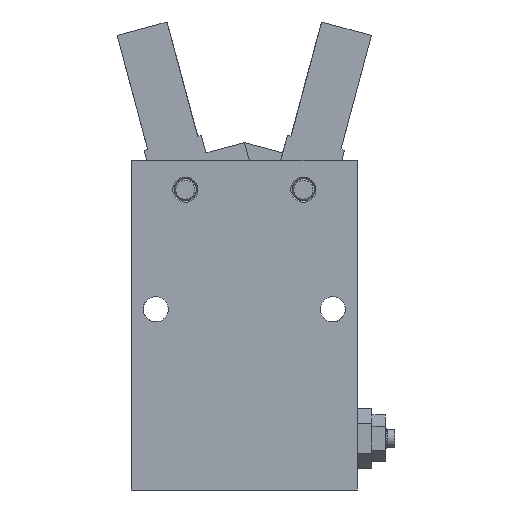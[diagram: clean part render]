
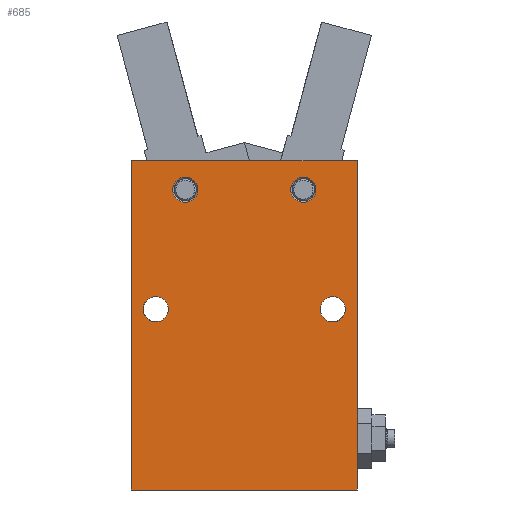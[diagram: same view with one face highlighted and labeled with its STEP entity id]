
A CAD part, front view. The second image highlights one B-rep face of the part: STEP entity #685.
In plain terms, the highlighted planar face has unit normal (0, -1, 0).
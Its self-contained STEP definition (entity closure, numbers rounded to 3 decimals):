
#32 = VERTEX_POINT ( 'NONE', #1544 ) ;
#36 = VERTEX_POINT ( 'NONE', #1538 ) ;
#63 = VERTEX_POINT ( 'NONE', #1565 ) ;
#104 = EDGE_CURVE ( 'NONE', #105, #63, #1681, .T. ) ;
#105 = VERTEX_POINT ( 'NONE', #1676 ) ;
#229 = VERTEX_POINT ( 'NONE', #1902 ) ;
#304 = VERTEX_POINT ( 'NONE', #1966 ) ;
#312 = VERTEX_POINT ( 'NONE', #2015 ) ;
#348 = EDGE_CURVE ( 'NONE', #312, #304, #2062, .T. ) ;
#609 = EDGE_LOOP ( 'NONE', ( #610, #611 ) ) ;
#610 = ORIENTED_EDGE ( 'NONE', *, *, #104, .T. ) ;
#611 = ORIENTED_EDGE ( 'NONE', *, *, #612, .T. ) ;
#612 = EDGE_CURVE ( 'NONE', #63, #105, #2590, .T. ) ;
#669 = EDGE_LOOP ( 'NONE', ( #670, #671 ) ) ;
#670 = ORIENTED_EDGE ( 'NONE', *, *, #4935, .T. ) ;
#671 = ORIENTED_EDGE ( 'NONE', *, *, #4970, .T. ) ;
#672 = EDGE_LOOP ( 'NONE', ( #673, #674 ) ) ;
#673 = ORIENTED_EDGE ( 'NONE', *, *, #4948, .T. ) ;
#674 = ORIENTED_EDGE ( 'NONE', *, *, #348, .T. ) ;
#675 = EDGE_LOOP ( 'NONE', ( #676, #677, #679, #680 ) ) ;
#676 = ORIENTED_EDGE ( 'NONE', *, *, #4995, .T. ) ;
#677 = ORIENTED_EDGE ( 'NONE', *, *, #678, .F. ) ;
#678 = EDGE_CURVE ( 'NONE', #229, #4887, #2669, .T. ) ;
#679 = ORIENTED_EDGE ( 'NONE', *, *, #5005, .F. ) ;
#680 = ORIENTED_EDGE ( 'NONE', *, *, #682, .T. ) ;
#682 = EDGE_CURVE ( 'NONE', #5003, #4996, #2665, .T. ) ;
#685 = ADVANCED_FACE ( 'NONE', ( #2661, #2660, #2659, #2658, #2657 ), #2656, .F. ) ;
#686 = EDGE_LOOP ( 'NONE', ( #687, #688 ) ) ;
#687 = ORIENTED_EDGE ( 'NONE', *, *, #4922, .T. ) ;
#688 = ORIENTED_EDGE ( 'NONE', *, *, #689, .T. ) ;
#689 = EDGE_CURVE ( 'NONE', #32, #36, #2721, .T. ) ;
#1538 = CARTESIAN_POINT ( 'NONE',  ( -8., -11.8, 16.7 ) ) ;
#1544 = CARTESIAN_POINT ( 'NONE',  ( -8., -11.8, 20.1 ) ) ;
#1565 = CARTESIAN_POINT ( 'NONE',  ( 8., -11.8, 20.1 ) ) ;
#1676 = CARTESIAN_POINT ( 'NONE',  ( 8., -11.8, 16.7 ) ) ;
#1677 = DIRECTION ( 'NONE',  ( 0., 0., 1. ) ) ;
#1678 = DIRECTION ( 'NONE',  ( 0., 1., 0. ) ) ;
#1679 = CARTESIAN_POINT ( 'NONE',  ( 8., -11.8, 18.4 ) ) ;
#1680 = AXIS2_PLACEMENT_3D ( 'NONE', #1679, #1678, #1677 ) ;
#1681 = CIRCLE ( 'NONE', #1680, 1.7 ) ;
#1902 = CARTESIAN_POINT ( 'NONE',  ( 15.3, -11.8, -22.3 ) ) ;
#1966 = CARTESIAN_POINT ( 'NONE',  ( 12., -11.8, 3.9 ) ) ;
#2015 = CARTESIAN_POINT ( 'NONE',  ( 12., -11.8, 0.5 ) ) ;
#2058 = DIRECTION ( 'NONE',  ( 0., 0., 1. ) ) ;
#2059 = DIRECTION ( 'NONE',  ( 0., 1., 0. ) ) ;
#2060 = CARTESIAN_POINT ( 'NONE',  ( 12., -11.8, 2.2 ) ) ;
#2061 = AXIS2_PLACEMENT_3D ( 'NONE', #2060, #2059, #2058 ) ;
#2062 = CIRCLE ( 'NONE', #2061, 1.7 ) ;
#2586 = DIRECTION ( 'NONE',  ( 0., 0., 1. ) ) ;
#2587 = DIRECTION ( 'NONE',  ( 0., 1., 0. ) ) ;
#2588 = CARTESIAN_POINT ( 'NONE',  ( 8., -11.8, 18.4 ) ) ;
#2589 = AXIS2_PLACEMENT_3D ( 'NONE', #2588, #2587, #2586 ) ;
#2590 = CIRCLE ( 'NONE', #2589, 1.7 ) ;
#2655 = AXIS2_PLACEMENT_3D ( 'NONE', #2720, #2719, #2718 ) ;
#2656 = PLANE ( 'NONE',  #2655 ) ;
#2657 = FACE_OUTER_BOUND ( 'NONE', #675, .T. ) ;
#2658 = FACE_BOUND ( 'NONE', #672, .T. ) ;
#2659 = FACE_BOUND ( 'NONE', #669, .T. ) ;
#2660 = FACE_BOUND ( 'NONE', #609, .T. ) ;
#2661 = FACE_BOUND ( 'NONE', #686, .T. ) ;
#2662 = DIRECTION ( 'NONE',  ( -1., 0., 0. ) ) ;
#2663 = VECTOR ( 'NONE', #2662, 1000. ) ;
#2664 = CARTESIAN_POINT ( 'NONE',  ( 15.3, -11.8, 22.3 ) ) ;
#2665 = LINE ( 'NONE', #2664, #2663 ) ;
#2666 = DIRECTION ( 'NONE',  ( -1., 0., 0. ) ) ;
#2667 = VECTOR ( 'NONE', #2666, 1000. ) ;
#2668 = CARTESIAN_POINT ( 'NONE',  ( 15.3, -11.8, -22.3 ) ) ;
#2669 = LINE ( 'NONE', #2668, #2667 ) ;
#2714 = DIRECTION ( 'NONE',  ( 0., 0., 1. ) ) ;
#2715 = DIRECTION ( 'NONE',  ( 0., 1., 0. ) ) ;
#2716 = CARTESIAN_POINT ( 'NONE',  ( -8., -11.8, 18.4 ) ) ;
#2717 = AXIS2_PLACEMENT_3D ( 'NONE', #2716, #2715, #2714 ) ;
#2718 = DIRECTION ( 'NONE',  ( 0., 0., 1. ) ) ;
#2719 = DIRECTION ( 'NONE',  ( 0., 1., 0. ) ) ;
#2720 = CARTESIAN_POINT ( 'NONE',  ( 15.3, -11.8, -22.3 ) ) ;
#2721 = CIRCLE ( 'NONE', #2717, 1.7 ) ;
#4165 = CARTESIAN_POINT ( 'NONE',  ( -15.3, -11.8, -22.3 ) ) ;
#4172 = CIRCLE ( 'NONE', #4227, 1.7 ) ;
#4201 = AXIS2_PLACEMENT_3D ( 'NONE', #4264, #4263, #4262 ) ;
#4202 = CIRCLE ( 'NONE', #4201, 1.7 ) ;
#4224 = DIRECTION ( 'NONE',  ( 0., 0., 1. ) ) ;
#4225 = DIRECTION ( 'NONE',  ( 0., 1., 0. ) ) ;
#4226 = CARTESIAN_POINT ( 'NONE',  ( -8., -11.8, 18.4 ) ) ;
#4227 = AXIS2_PLACEMENT_3D ( 'NONE', #4226, #4225, #4224 ) ;
#4247 = DIRECTION ( 'NONE',  ( 0., 0., 1. ) ) ;
#4248 = DIRECTION ( 'NONE',  ( 0., 1., 0. ) ) ;
#4249 = CARTESIAN_POINT ( 'NONE',  ( 12., -11.8, 2.2 ) ) ;
#4250 = AXIS2_PLACEMENT_3D ( 'NONE', #4249, #4248, #4247 ) ;
#4251 = CIRCLE ( 'NONE', #4250, 1.7 ) ;
#4262 = DIRECTION ( 'NONE',  ( 0., 0., -1. ) ) ;
#4263 = DIRECTION ( 'NONE',  ( 0., 1., 0. ) ) ;
#4264 = CARTESIAN_POINT ( 'NONE',  ( -12., -11.8, 2.2 ) ) ;
#4282 = CARTESIAN_POINT ( 'NONE',  ( -12., -11.8, 3.9 ) ) ;
#4314 = CARTESIAN_POINT ( 'NONE',  ( -12., -11.8, 0.5 ) ) ;
#4315 = DIRECTION ( 'NONE',  ( 0., 0., -1. ) ) ;
#4316 = DIRECTION ( 'NONE',  ( 0., 1., 0. ) ) ;
#4317 = CARTESIAN_POINT ( 'NONE',  ( -12., -11.8, 2.2 ) ) ;
#4318 = AXIS2_PLACEMENT_3D ( 'NONE', #4317, #4316, #4315 ) ;
#4319 = CIRCLE ( 'NONE', #4318, 1.7 ) ;
#4351 = CARTESIAN_POINT ( 'NONE',  ( -15.3, -11.8, 22.3 ) ) ;
#4352 = DIRECTION ( 'NONE',  ( 0., 0., -1. ) ) ;
#4353 = VECTOR ( 'NONE', #4352, 1000. ) ;
#4354 = CARTESIAN_POINT ( 'NONE',  ( -15.3, -11.8, -22.3 ) ) ;
#4355 = LINE ( 'NONE', #4354, #4353 ) ;
#4396 = DIRECTION ( 'NONE',  ( 0., 0., -1. ) ) ;
#4397 = VECTOR ( 'NONE', #4396, 1000. ) ;
#4398 = CARTESIAN_POINT ( 'NONE',  ( 15.3, -11.8, -22.3 ) ) ;
#4399 = LINE ( 'NONE', #4398, #4397 ) ;
#4400 = CARTESIAN_POINT ( 'NONE',  ( 15.3, -11.8, 22.3 ) ) ;
#4887 = VERTEX_POINT ( 'NONE', #4165 ) ;
#4922 = EDGE_CURVE ( 'NONE', #36, #32, #4172, .T. ) ;
#4935 = EDGE_CURVE ( 'NONE', #4959, #4971, #4202, .T. ) ;
#4948 = EDGE_CURVE ( 'NONE', #304, #312, #4251, .T. ) ;
#4959 = VERTEX_POINT ( 'NONE', #4282 ) ;
#4970 = EDGE_CURVE ( 'NONE', #4971, #4959, #4319, .T. ) ;
#4971 = VERTEX_POINT ( 'NONE', #4314 ) ;
#4995 = EDGE_CURVE ( 'NONE', #4996, #4887, #4355, .T. ) ;
#4996 = VERTEX_POINT ( 'NONE', #4351 ) ;
#5003 = VERTEX_POINT ( 'NONE', #4400 ) ;
#5005 = EDGE_CURVE ( 'NONE', #5003, #229, #4399, .T. ) ;
